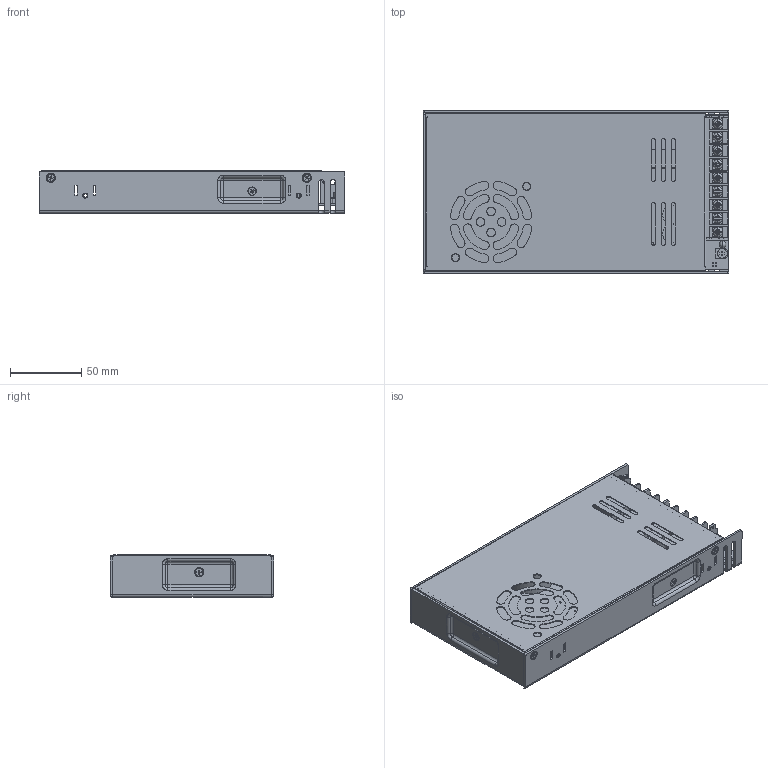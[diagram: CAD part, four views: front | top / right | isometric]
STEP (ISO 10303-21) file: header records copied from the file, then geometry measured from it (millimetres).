
FILE_DESCRIPTION (( 'STEP AP214' ), '1' );
FILE_NAME ('LBA350.STEP', '2025-11-20T23:54:00', ( '' ), ( '' ), 'SwSTEP 2.0', 'SolidWorks 2024', '' );
FILE_SCHEMA (( 'AUTOMOTIVE_DESIGN' ));
Length unit declared in the file: millimetre
Products named in the file (14): 200_.stp; LBA350.stp; 3140500010_____30X8X2___.stp; CROSS_RECESSED_COUNTERSUNK_HEAD.stp; LBA350.stp-0; ________20X1.stp; 3140500037__3011__-30X11.stp; 300-05-B___.stp; COUNTERSUNK_FLAT_HEAD_CROSS_REC.stp; LBA350_1_ASM.stp; LBA350 (XP); LBA350.stp-1; LBA350-XXPDIP1__1020.stp; LBA350
Assembly tree (24 placements, depth 4):
  LBA350
    LBA350 (XP)
      LBA350_1_ASM.stp
        3140500010_____30X8X2___.stp  x4
        CROSS_RECESSED_COUNTERSUNK_HEAD.stp  x4
        200_.stp
        COUNTERSUNK_FLAT_HEAD_CROSS_REC.stp  x6
        LBA350-XXPDIP1__1020.stp
        300-05-B___.stp
        3140500037__3011__-30X11.stp
        ________20X1.stp
      LBA350.stp
      LBA350.stp-0
      LBA350.stp-1
Bounding box: 215 x 115 x 30 mm (x, y, z)
Volume: 177104.3 mm3; surface area: 203097.4 mm2
Topology: 22 solids, 22 shells, 2190 faces, 5625 edges, 3496 vertices
Faces by surface type: plane 1002, cylinder 728, cone 224, torus 202, sphere 18, bspline 16
Entity records: 58071 total; most frequent: CARTESIAN_POINT 12449, DIRECTION 9721, ORIENTED_EDGE 9270, EDGE_CURVE 4635, AXIS2_PLACEMENT_3D 3503, VERTEX_POINT 2940, LINE 2715, VECTOR 2715
